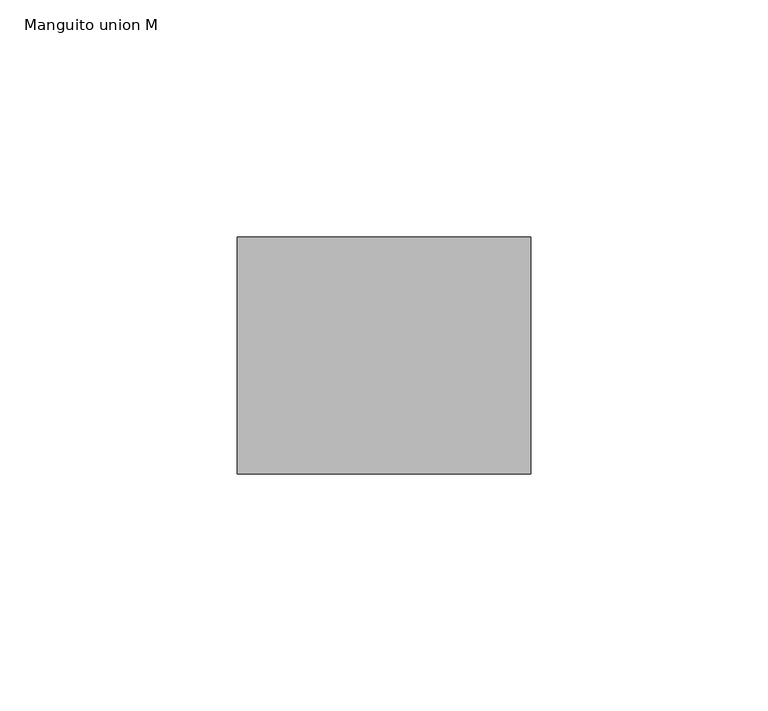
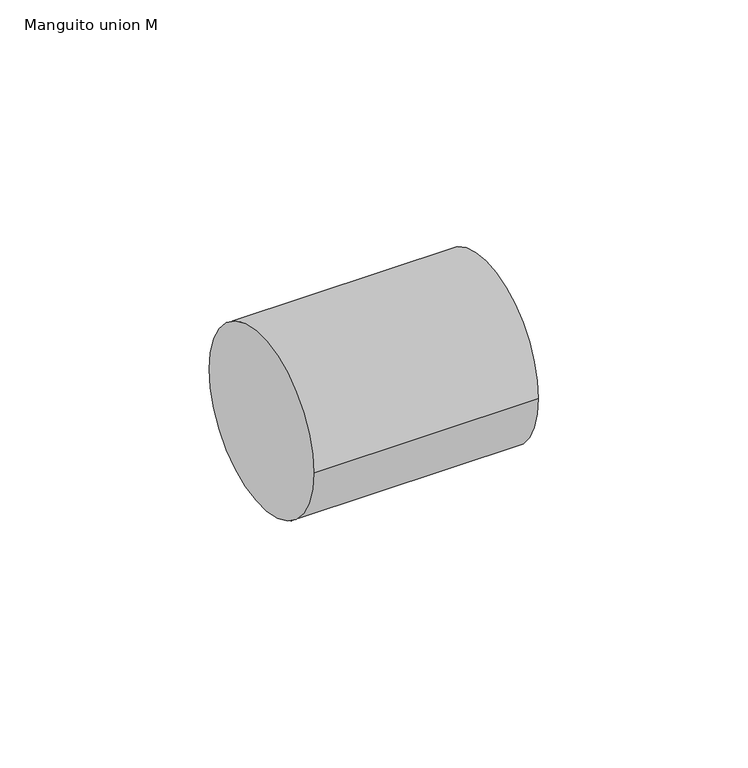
"""IFC4 building model written with IfcOpenShell, lengths in millimetres: pipe fitting geometry, 01051061 : Manguito union M."""

from ifc_helpers import new_model, si_unit, point, frame, origin, origin_2d, place, context, project, spatial, circle_curve, trimmed, segment, composite_curve, outline, extrude, source, transform, mapped, element, save


def manguito_union_m_b21f581c(model_context):
    return source(origin(), model_context, "Body", "SweptSolid", [
        extrude(outline(composite_curve([segment(trimmed(circle_curve(origin_2d(), 25.0), [point((-25.0, 0.0))], [point((25.0, 0.0))], False, "CARTESIAN"), True, "CONTINUOUS"), segment(trimmed(circle_curve(origin_2d(), 25.0), [point((25.0, 0.0))], [point((-25.0, 0.0))], False, "CARTESIAN"), True, "CONTINUOUS")], self_intersect=False)), frame((-31.0, 0.0, 0.0), z_axis=(1.0, 0.0, 0.0), x_axis=(0.0, 1.0, 0.0)), (0.0, 0.0, 1.0), 62.0),
    ])


if __name__ == "__main__":
    model = new_model("IFC4")
    model_context = context("Model", 3, world=origin())
    ifc_project = project(units=[si_unit("LENGTHUNIT", "METRE", prefix="MILLI")], contexts=[model_context])
    site = spatial("IfcSite", under=ifc_project)
    building = spatial("IfcBuilding", under=site)
    placement = place(None, origin())
    manguito_union_m_shape = manguito_union_m_b21f581c(model_context)
    element("IfcPipeFitting", 1, ObjectType="01051061 : Manguito union M", at=placement, inside=building, context=model_context, shape_type="MappedRepresentation", body=[
        mapped(manguito_union_m_shape, transform((0.0, 0.0, 0.0), x_axis=(1.0, 0.0, 0.0), y_axis=(0.0, 1.0, 0.0), z_axis=(0.0, 0.0, 1.0))),
    ])
    save(model, "model.ifc")
